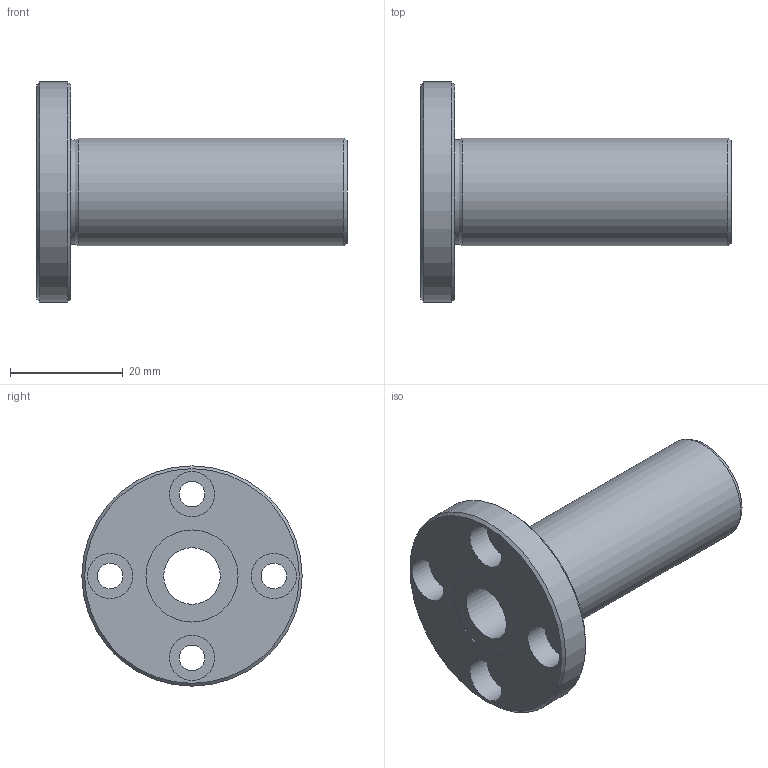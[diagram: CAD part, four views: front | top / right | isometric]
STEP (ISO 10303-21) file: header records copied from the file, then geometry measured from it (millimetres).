
FILE_DESCRIPTION((''),'2;1');
FILE_NAME('D:\製品 (図面)\カタログ用3D\リニアベアリング関連\STEP形式\LFD\LFD10.stp','2010-06-03T09:19:30',('Tsuchiya'),(''),'Autodesk Inventor 10','Autodesk Inventor 10','');
FILE_SCHEMA(('AUTOMOTIVE_DESIGN { 1 0 10303 214 1 1 1 1 }'));
Length unit declared in the file: millimetre
Products named in the file (1): LFD10
Bounding box: 55 x 39 x 39 mm (x, y, z)
Volume: 15686.3 mm3; surface area: 7951.4 mm2
Topology: 1 solids, 1 shells, 26 faces, 47 edges, 30 vertices
Faces by surface type: cylinder 13, plane 9, cone 2, torus 1, bspline 1
Full cylindrical faces by diameter (mm): 4.5 x4, 8 x4, 10 x1, 16.3 x2, 19 x1, 39 x1
Entity records: 665 total; most frequent: CARTESIAN_POINT 149, DIRECTION 112, ORIENTED_EDGE 60, EDGE_LOOP 60, AXIS2_PLACEMENT_3D 56, FACE_BOUND 34, VERTEX_POINT 30, CIRCLE 30
